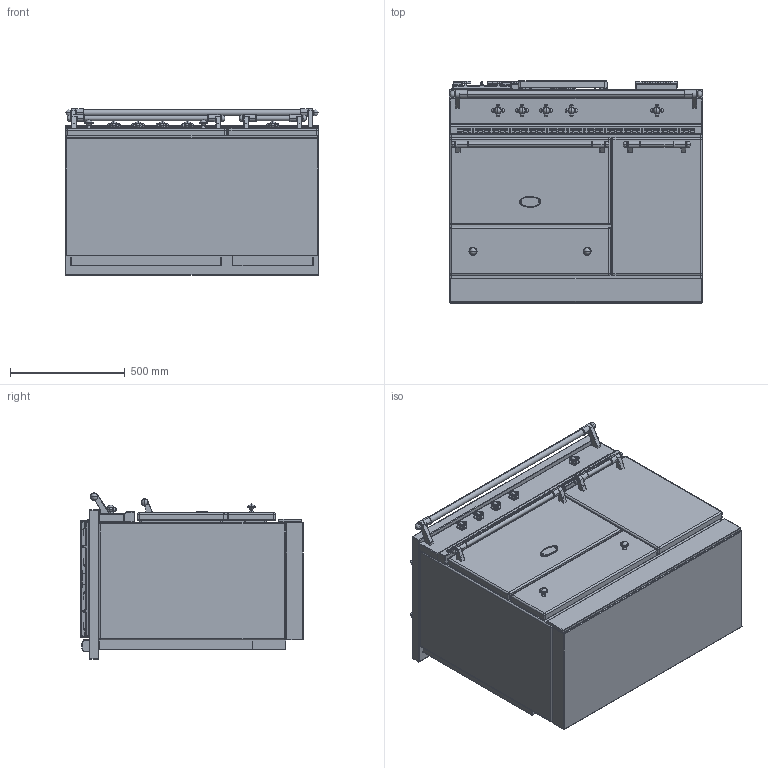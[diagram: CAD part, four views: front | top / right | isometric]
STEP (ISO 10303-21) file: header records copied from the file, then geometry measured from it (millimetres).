
FILE_DESCRIPTION((''),'2;1');
FILE_NAME('LCF1132_SAVIGNY_ASM','2021-12-02T09:30:52',('r.avril'),(''),'CREO PARAMETRIC BY PTC INC, 2017260','CREO PARAMETRIC BY PTC INC, 2017260','');
FILE_SCHEMA(('AP203_CONFIGURATION_CONTROLLED_3D_DESIGN_OF_MECHANICAL_PARTS_AND_ASSEMBLIES_MIM_LF { 1 0 10303 403 2 1 2 }'));
Products named in the file (27): BASE_EXPORT_CHAMBERTIN_LG1131; 65650003; 65650004; 6531940; 6531941; 6531943; 65049009; 65650001; 6538399; 1931942; 65080022_AF0; 6531942_ASM; BASE_EXPORT_SAVIGNY_LG1132_ASM; TABLE_1105D_CLASSIQUE_3_FEUX; 5KW; 1_5KW; 3KW; 6537023; 65149005; 90000565_ASM; 65062008; 65062012; 90000549_ASM; CHEMINEE_2020_LG182_EXPORT_STEP; CHEMINEE_2020_LG371_EXPORT_STEP; TABLE_1105D_TRADITION_ASM; LCF1132_SAVIGNY_ASM
Assembly tree (40 placements, depth 4):
  LCF1132_SAVIGNY_ASM
    BASE_EXPORT_SAVIGNY_LG1132_ASM
      BASE_EXPORT_CHAMBERTIN_LG1131
      65650003
      65650004
      6531940  x2
      6531941  x2
      6531943  x2
      65049009
      65650001
      6531942_ASM  x5
        6538399
        1931942
        65080022_AF0
    TABLE_1105D_TRADITION_ASM
      TABLE_1105D_CLASSIQUE_3_FEUX
      5KW
      1_5KW
      3KW
      90000565_ASM
        6537023
        65149005  x4
      90000549_ASM
        65062008
        65062012
        65149005  x4
      CHEMINEE_2020_LG182_EXPORT_STEP
      CHEMINEE_2020_LG371_EXPORT_STEP
Bounding box: 1105 x 967 x 724 mm (x, y, z)
Volume: 402290205.1 mm3; surface area: 10573134.1 mm2
Topology: 50 solids, 58 shells, 6963 faces, 17954 edges, 11176 vertices
Faces by surface type: plane 3464, cylinder 1911, bspline 643, torus 296, sphere 276, cone 199, extrusion 162, revolution 12
Entity records: 225980 total; most frequent: CARTESIAN_POINT 60767, ORIENTED_EDGE 27748, DIRECTION 25302, EDGE_CURVE 13884, PRESENTATION_STYLE_ASSIGNMENT 9363, STYLED_ITEM 9340, CURVE_STYLE 9164, VECTOR 9140
